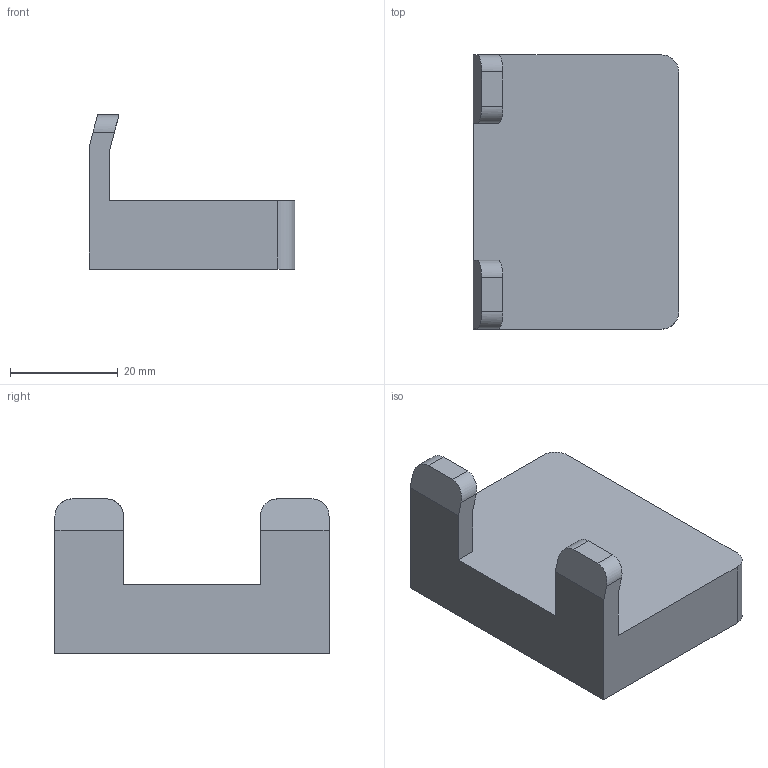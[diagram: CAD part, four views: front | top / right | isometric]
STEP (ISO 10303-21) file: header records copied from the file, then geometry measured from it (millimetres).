
FILE_DESCRIPTION (( 'STEP AP214' ), '1' );
FILE_NAME ('EDGE CLAMP_REV A.STEP', '2019-09-19T01:34:08', ( 'HP z420' ), ( '' ), 'SwSTEP 2.0', 'SolidWorks 2018', '' );
FILE_SCHEMA (( 'AUTOMOTIVE_DESIGN' ));
Length unit declared in the file: inch
Products named in the file (2): EDGE CLAMP_REV A; Edge Clamp
Assembly tree (1 placements, depth 2):
  EDGE CLAMP_REV A
    Edge Clamp
Bounding box: 38.1 x 50.8 x 28.57 mm (x, y, z)
Volume: 23828.4 mm3; surface area: 8523.2 mm2
Topology: 1 solids, 1 shells, 43 faces, 124 edges, 81 vertices
Faces by surface type: plane 23, cylinder 18, cone 2
Entity records: 1560 total; most frequent: CARTESIAN_POINT 316, ORIENTED_EDGE 244, DIRECTION 230, EDGE_CURVE 122, VERTEX_POINT 81, LINE 80, VECTOR 80, AXIS2_PLACEMENT_3D 75
